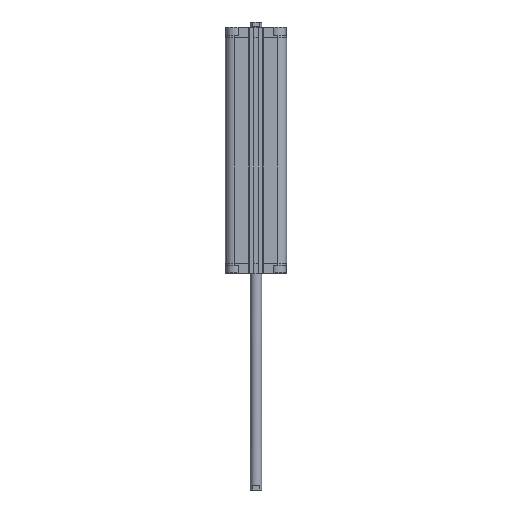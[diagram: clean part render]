
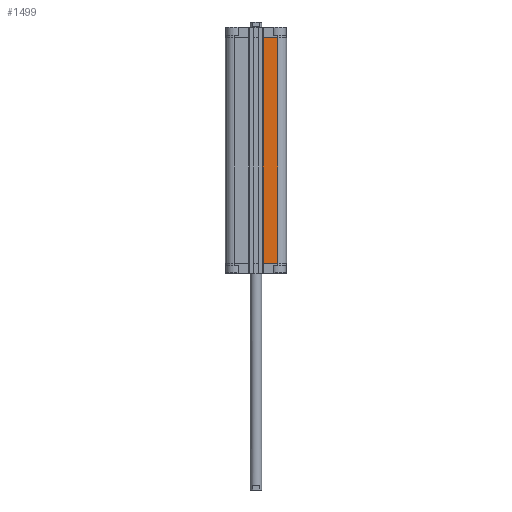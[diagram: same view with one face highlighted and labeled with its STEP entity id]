
A CAD part, front view. The second image highlights one B-rep face of the part: STEP entity #1499.
In plain terms, the highlighted planar face has unit normal (0, -1, 0).
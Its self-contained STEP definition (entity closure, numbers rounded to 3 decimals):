
#166 = EDGE_CURVE ( 'NONE', #8244, #14490, #13205, .T. ) ;
#407 = ORIENTED_EDGE ( 'NONE', *, *, #7676, .F. ) ;
#1309 = EDGE_LOOP ( 'NONE', ( #407, #4548, #7392, #3219 ) ) ;
#1499 = ADVANCED_FACE ( 'NONE', ( #15294 ), #1986, .T. ) ;
#1793 = DIRECTION ( 'NONE',  ( -1., 0., 0. ) ) ;
#1986 = PLANE ( 'NONE',  #12489 ) ;
#2150 = CARTESIAN_POINT ( 'NONE',  ( 31., -43.5, -335.5 ) ) ;
#2156 = VECTOR ( 'NONE', #5770, 1000. ) ;
#2366 = VECTOR ( 'NONE', #18832, 1000. ) ;
#2777 = CARTESIAN_POINT ( 'NONE',  ( 10.05, -43.5, -14.5 ) ) ;
#3219 = ORIENTED_EDGE ( 'NONE', *, *, #11354, .T. ) ;
#3680 = LINE ( 'NONE', #2777, #2156 ) ;
#3743 = VECTOR ( 'NONE', #9214, 1000. ) ;
#4548 = ORIENTED_EDGE ( 'NONE', *, *, #17794, .F. ) ;
#5770 = DIRECTION ( 'NONE',  ( 1., 0., 0. ) ) ;
#6075 = LINE ( 'NONE', #10625, #18660 ) ;
#6365 = CARTESIAN_POINT ( 'NONE',  ( 10.05, -43.5, -335.5 ) ) ;
#6741 = LINE ( 'NONE', #12773, #2366 ) ;
#7392 = ORIENTED_EDGE ( 'NONE', *, *, #166, .T. ) ;
#7676 = EDGE_CURVE ( 'NONE', #9826, #11072, #3680, .T. ) ;
#8244 = VERTEX_POINT ( 'NONE', #8683 ) ;
#8683 = CARTESIAN_POINT ( 'NONE',  ( 10.05, -43.5, -335.5 ) ) ;
#9214 = DIRECTION ( 'NONE',  ( 1., 0., 0. ) ) ;
#9426 = DIRECTION ( 'NONE',  ( 0., -1., 0. ) ) ;
#9826 = VERTEX_POINT ( 'NONE', #15607 ) ;
#10625 = CARTESIAN_POINT ( 'NONE',  ( 31., -43.5, -335.5 ) ) ;
#10807 = CARTESIAN_POINT ( 'NONE',  ( 10.05, -43.5, -335.5 ) ) ;
#11072 = VERTEX_POINT ( 'NONE', #12621 ) ;
#11354 = EDGE_CURVE ( 'NONE', #14490, #11072, #6075, .T. ) ;
#12489 = AXIS2_PLACEMENT_3D ( 'NONE', #6365, #9426, #1793 ) ;
#12621 = CARTESIAN_POINT ( 'NONE',  ( 31., -43.5, -14.5 ) ) ;
#12773 = CARTESIAN_POINT ( 'NONE',  ( 10.05, -43.5, -335.5 ) ) ;
#13205 = LINE ( 'NONE', #10807, #3743 ) ;
#14490 = VERTEX_POINT ( 'NONE', #2150 ) ;
#15294 = FACE_OUTER_BOUND ( 'NONE', #1309, .T. ) ;
#15295 = DIRECTION ( 'NONE',  ( 0., 0., 1. ) ) ;
#15607 = CARTESIAN_POINT ( 'NONE',  ( 10.05, -43.5, -14.5 ) ) ;
#17794 = EDGE_CURVE ( 'NONE', #8244, #9826, #6741, .T. ) ;
#18660 = VECTOR ( 'NONE', #15295, 1000. ) ;
#18832 = DIRECTION ( 'NONE',  ( 0., 0., 1. ) ) ;
